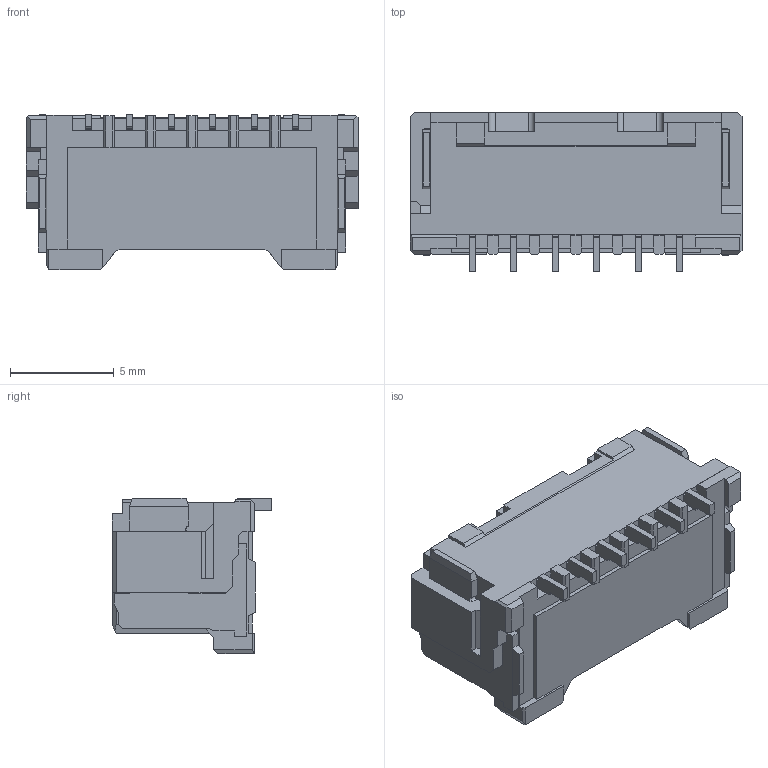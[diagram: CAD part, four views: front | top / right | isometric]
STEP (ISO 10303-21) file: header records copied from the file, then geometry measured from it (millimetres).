
FILE_DESCRIPTION((''),'2;1');
FILE_NAME('5024430670','2016-07-15T',('gsharma'),(''),'PRO/ENGINEER BY PARAMETRIC TECHNOLOGY CORPORATION, 2012310','PRO/ENGINEER BY PARAMETRIC TECHNOLOGY CORPORATION, 2012310','');
FILE_SCHEMA(('CONFIG_CONTROL_DESIGN'));
Length unit declared in the file: millimetre
Products named in the file (1): 5024430670
Bounding box: 16 x 7.7 x 7.5 mm (x, y, z)
Volume: 369.3 mm3; surface area: 872.8 mm2
Topology: 1 solids, 1 shells, 505 faces, 1497 edges, 983 vertices
Faces by surface type: plane 453, cylinder 50, cone 2
Entity records: 16589 total; most frequent: CARTESIAN_POINT 3041, ORIENTED_EDGE 2930, DIRECTION 2579, EDGE_CURVE 1465, VECTOR 1383, LINE 1383, VERTEX_POINT 951, AXIS2_PLACEMENT_3D 598
